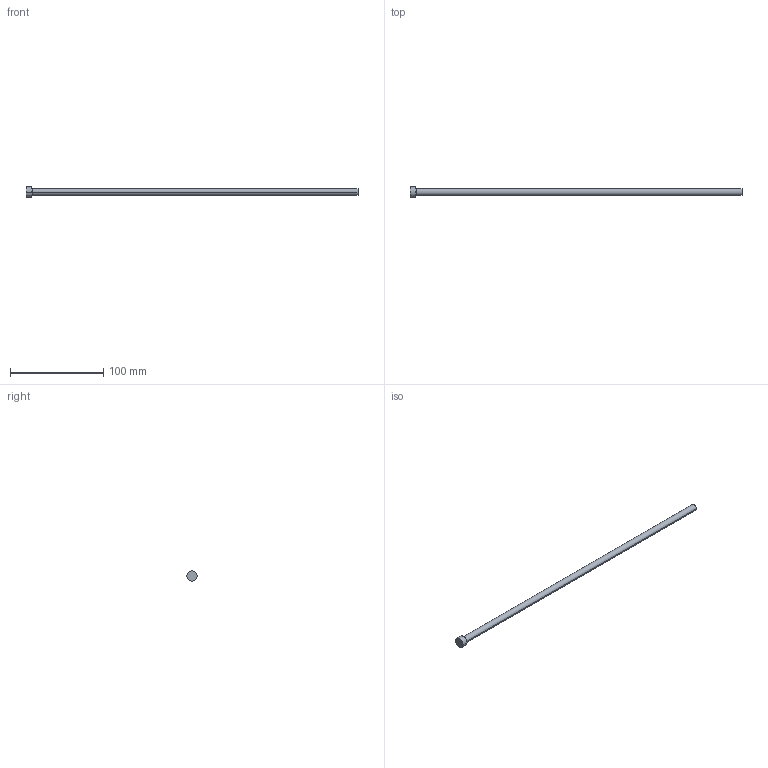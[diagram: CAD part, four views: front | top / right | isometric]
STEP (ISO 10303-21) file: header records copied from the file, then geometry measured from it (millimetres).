
FILE_DESCRIPTION (( 'STEP AP214' ), '1' );
FILE_NAME ('P19-14.STEP', '2020-03-12T09:00:32', ( '' ), ( '' ), 'SwSTEP 2.0', 'SolidWorks 2018', '' );
FILE_SCHEMA (( 'AUTOMOTIVE_DESIGN' ));
Length unit declared in the file: inch
Products named in the file (1): P19-14
Bounding box: 355.6 x 11.11 x 11.11 mm (x, y, z)
Volume: 14587 mm3; surface area: 8234.2 mm2
Topology: 1 solids, 1 shells, 13 faces, 24 edges, 14 vertices
Faces by surface type: cone 4, cylinder 4, plane 3, torus 2
Entity records: 366 total; most frequent: DIRECTION 68, CARTESIAN_POINT 52, ORIENTED_EDGE 48, AXIS2_PLACEMENT_3D 30, EDGE_CURVE 24, CIRCLE 16, EDGE_LOOP 14, VERTEX_POINT 14
